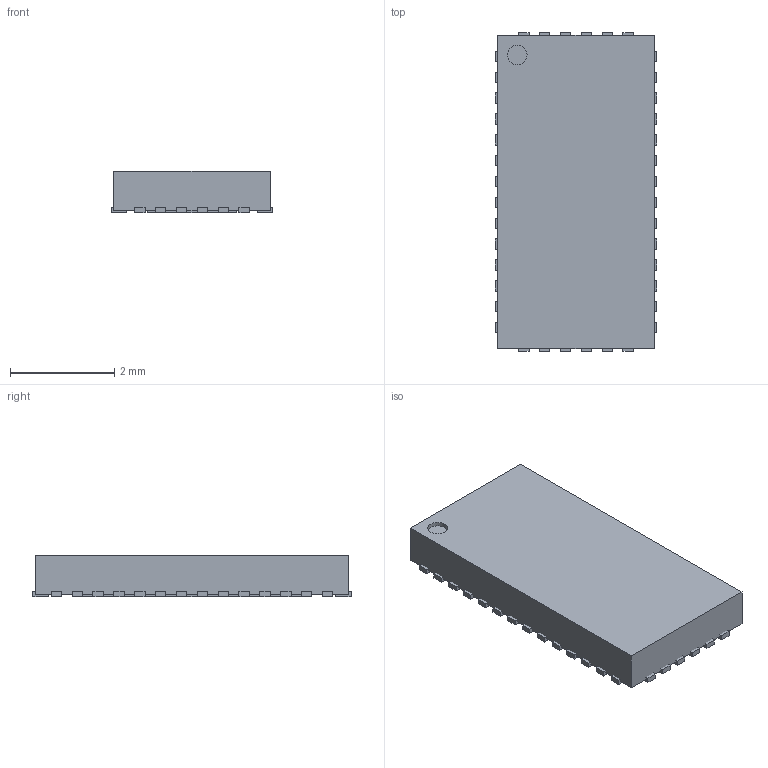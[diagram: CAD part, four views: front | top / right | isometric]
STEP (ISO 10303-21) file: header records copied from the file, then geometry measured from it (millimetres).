
FILE_DESCRIPTION(('FreeCAD Model'),'2;1');
FILE_NAME('/var/www/3D/0T/19214423.2.2.stp','2024-05-17T09:24:32',( 'Author'),(''),'Open CASCADE STEP processor 6.9','FreeCAD','Unknown' );
FILE_SCHEMA(('AUTOMOTIVE_DESIGN { 1 0 10303 214 1 1 1 1 }'));
Length unit declared in the file: millimetre
Products named in the file (5): ASSEMBLY; Body; ThermalPin; PinsArrayLR; PinsArrayTB
Assembly tree (4 placements, depth 2):
  ASSEMBLY
    Body
    ThermalPin
    PinsArrayLR
    PinsArrayTB
Bounding box: 3.1 x 6.1 x 0.8 mm (x, y, z)
Volume: 14.5 mm3; surface area: 74.9 mm2
Topology: 42 solids, 42 shells, 254 faces, 507 edges, 338 vertices
Faces by surface type: plane 253, cylinder 1
Full cylindrical faces by diameter (mm): 0.375 x1
Entity records: 13408 total; most frequent: CARTESIAN_POINT 2118, DIRECTION 2041, LINE 1517, VECTOR 1517, ORIENTED_EDGE 1014, PCURVE 1014, DEFINITIONAL_REPRESENTATION 1014, EDGE_CURVE 507
